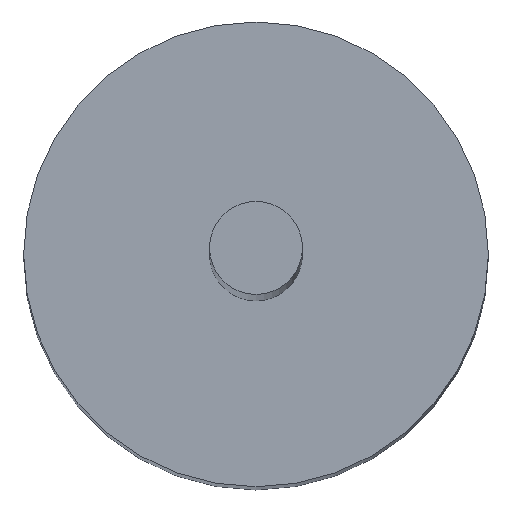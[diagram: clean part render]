
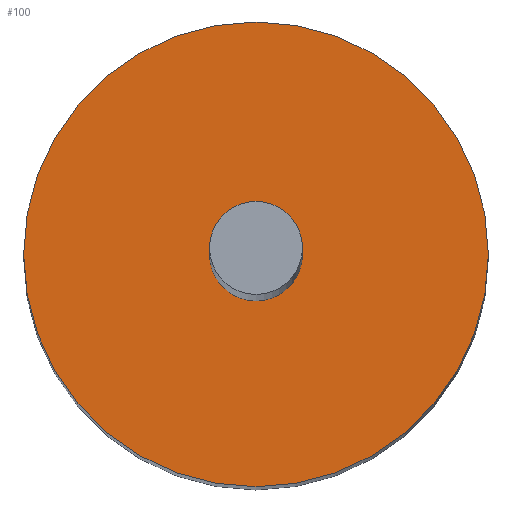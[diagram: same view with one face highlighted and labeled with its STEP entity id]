
A CAD part, top view. The second image highlights one B-rep face of the part: STEP entity #100.
In plain terms, the highlighted planar face has unit normal (0, 0, 1).
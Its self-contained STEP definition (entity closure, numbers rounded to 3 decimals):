
#100=ADVANCED_FACE('',(#111,#112),#107,.T.);
#107=PLANE('',#166);
#111=FACE_BOUND('',#121,.T.);
#112=FACE_BOUND('',#122,.T.);
#121=EDGE_LOOP('',(#133));
#122=EDGE_LOOP('',(#134));
#133=ORIENTED_EDGE('',*,*,#151,.F.);
#134=ORIENTED_EDGE('',*,*,#152,.F.);
#145=VERTEX_POINT('',#207);
#146=VERTEX_POINT('',#209);
#151=EDGE_CURVE('',#145,#145,#157,.T.);
#152=EDGE_CURVE('',#146,#146,#158,.T.);
#157=CIRCLE('',#164,0.3);
#158=CIRCLE('',#165,1.5);
#164=AXIS2_PLACEMENT_3D('',#206,#179,#180);
#165=AXIS2_PLACEMENT_3D('',#208,#181,#182);
#166=AXIS2_PLACEMENT_3D('',#210,#183,#184);
#179=DIRECTION('',(0.,0.,1.));
#180=DIRECTION('',(1.,0.,0.));
#181=DIRECTION('',(0.,0.,-1.));
#182=DIRECTION('',(-1.,0.,0.));
#183=DIRECTION('',(0.,0.,1.));
#184=DIRECTION('',(1.,0.,0.));
#206=CARTESIAN_POINT('',(0.,0.,12.));
#207=CARTESIAN_POINT('',(0.3,0.,12.));
#208=CARTESIAN_POINT('',(0.,0.,12.));
#209=CARTESIAN_POINT('',(-1.5,0.,12.));
#210=CARTESIAN_POINT('',(0.,0.,12.));
